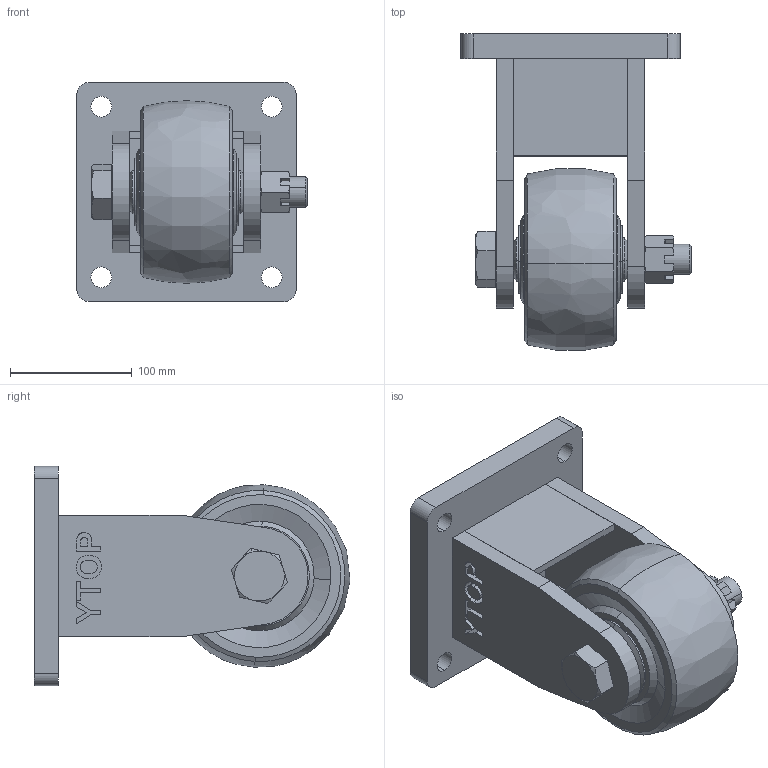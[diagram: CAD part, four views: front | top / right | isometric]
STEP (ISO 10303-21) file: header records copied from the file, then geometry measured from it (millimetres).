
FILE_DESCRIPTION (( 'STEP AP203' ), '1' );
FILE_NAME ('26-150G-75-MC.STEP', '2022-08-20T04:10:59', ( '' ), ( '' ), 'SwSTEP 2.0', 'SolidWorks 2016', '' );
FILE_SCHEMA (( 'CONFIG_CONTROL_DESIGN' ));
Length unit declared in the file: millimetre
Products named in the file (1): 26-150G-75-MC
Bounding box: 189 x 259.37 x 180 mm (x, y, z)
Volume: 2553192 mm3; surface area: 313339.9 mm2
Topology: 8 solids, 8 shells, 282 faces, 704 edges, 461 vertices
Faces by surface type: plane 147, cylinder 52, cone 45, bspline 38
Entity records: 10588 total; most frequent: CARTESIAN_POINT 3940, ORIENTED_EDGE 1408, DIRECTION 1243, EDGE_CURVE 704, VERTEX_POINT 461, VECTOR 419, LINE 419, AXIS2_PLACEMENT_3D 412
